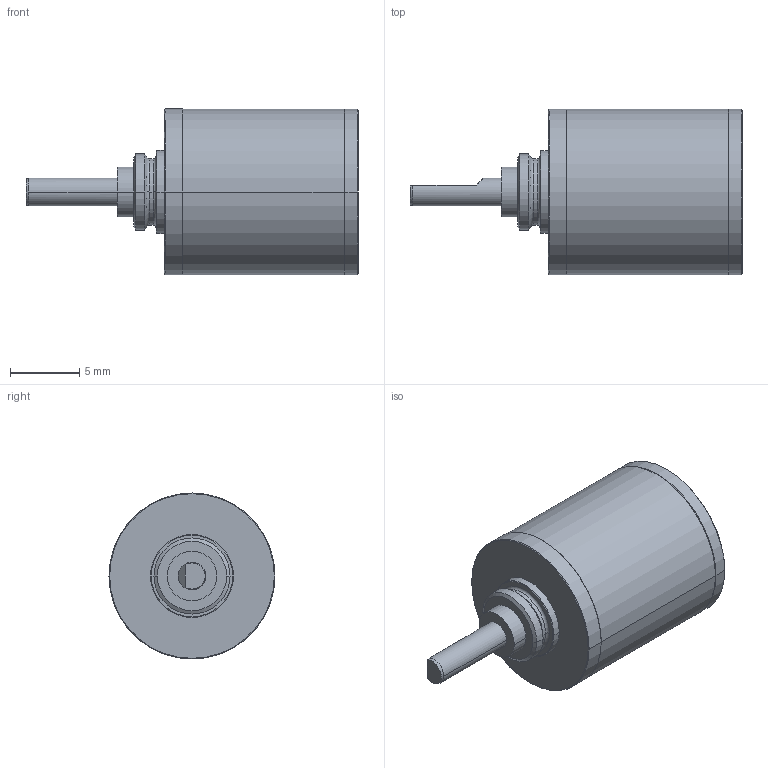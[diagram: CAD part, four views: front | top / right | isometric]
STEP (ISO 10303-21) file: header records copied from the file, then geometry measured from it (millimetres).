
FILE_DESCRIPTION((''),'2;1');
FILE_NAME('GS12A','2016-10-06T',('mmagpetk'),(''),'CREO PARAMETRIC BY PTC INC, 2016050','CREO PARAMETRIC BY PTC INC, 2016050','');
FILE_SCHEMA(('CONFIG_CONTROL_DESIGN'));
Length unit declared in the file: millimetre
Products named in the file (1): GS12A
Bounding box: 24 x 12 x 12 mm (x, y, z)
Volume: 1453.3 mm3; surface area: 1158.6 mm2
Topology: 1 solids, 1 shells, 94 faces, 201 edges, 122 vertices
Faces by surface type: cylinder 34, plane 25, cone 25, torus 10
Entity records: 3339 total; most frequent: CARTESIAN_POINT 504, DIRECTION 492, ORIENTED_EDGE 402, AXIS2_PLACEMENT_3D 211, PRESENTATION_STYLE_ASSIGNMENT 202, STYLED_ITEM 202, CURVE_STYLE 201, EDGE_CURVE 201
